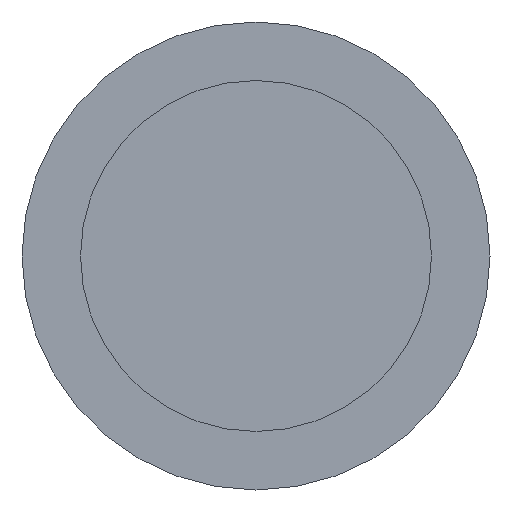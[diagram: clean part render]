
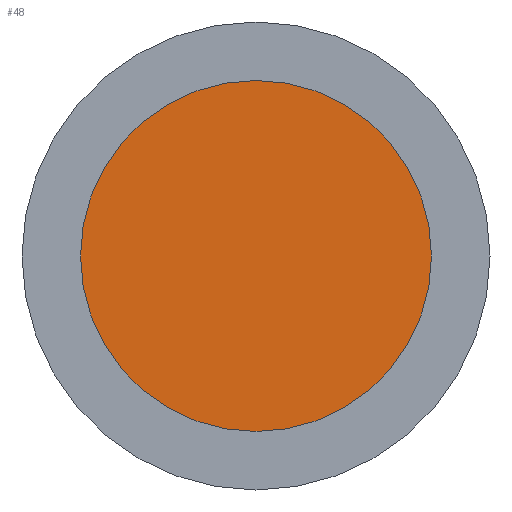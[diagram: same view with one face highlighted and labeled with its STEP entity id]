
A CAD part, left-side view. The second image highlights one B-rep face of the part: STEP entity #48.
In plain terms, the highlighted planar face has unit normal (-1, 0, 0).
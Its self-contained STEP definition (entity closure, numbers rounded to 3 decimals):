
#48=ADVANCED_FACE('',(#147),#149,.T.);
#147=FACE_BOUND('',#148,.T.);
#148=EDGE_LOOP('',(#242));
#149=PLANE('',#150);
#150=AXIS2_PLACEMENT_3D('',#151,#152,#153);
#151=CARTESIAN_POINT('',(-406.4,0.,0.));
#152=DIRECTION('',(-1.,0.,0.));
#153=DIRECTION('',(0.,0.,1.));
#242=ORIENTED_EDGE('',*,*,#262,.T.);
#262=EDGE_CURVE('',#272,#272,#273,.T.);
#272=VERTEX_POINT('',#292);
#273=CIRCLE('',#293,6.);
#292=CARTESIAN_POINT('',(-406.4,0.,6.));
#293=AXIS2_PLACEMENT_3D('',#294,#295,#296);
#294=CARTESIAN_POINT('',(-406.4,0.,0.));
#295=DIRECTION('',(-1.,0.,0.));
#296=DIRECTION('',(0.,0.,1.));
